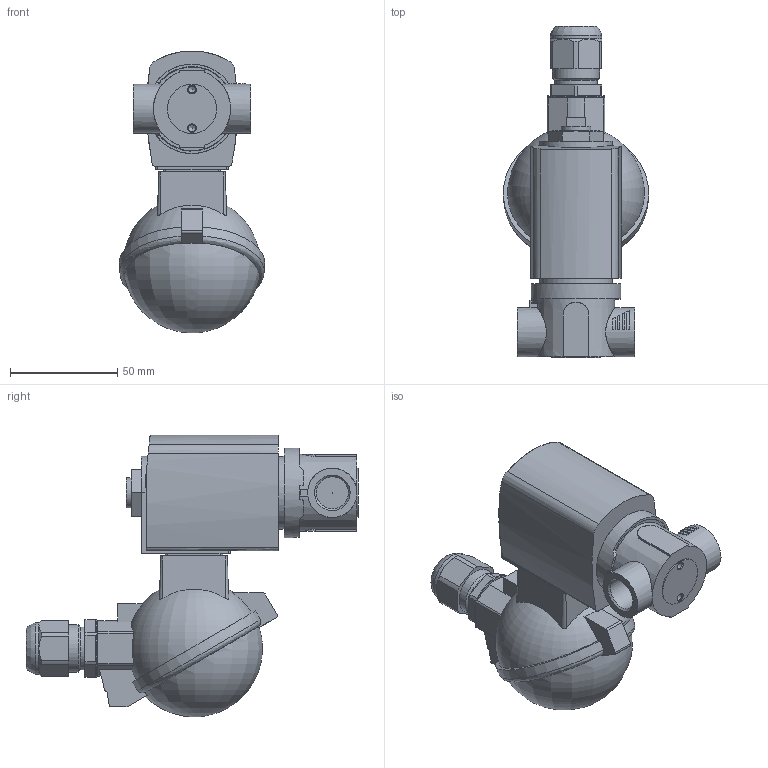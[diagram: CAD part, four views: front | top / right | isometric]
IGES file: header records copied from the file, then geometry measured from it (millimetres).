
Start section: Data from Parasolid IGES Translator 26.0.171, Copyright(c) 2006 Siemens PLM Software. All Rights Reserved.
Global section: file name: 6027-A-3-PTFE___FKM-MS-G_3_8-42-230___UC.igs; native system: By Siemens PLM Incorporated; preprocessor: XPlus GENERIC/IGES 26.0.171; author: Noname; organization: Noname; date: 20240321.064946; units: millimetre
Bounding box: 67.86 x 155.1 x 131.7 mm (x, y, z)
Surface area: 50037.3 mm2 (no closed solid volume)
Topology: 0 solids, 0 shells, 221 faces, 1143 edges, 1113 vertices
Faces by surface type: extrusion 121, revolution 100
